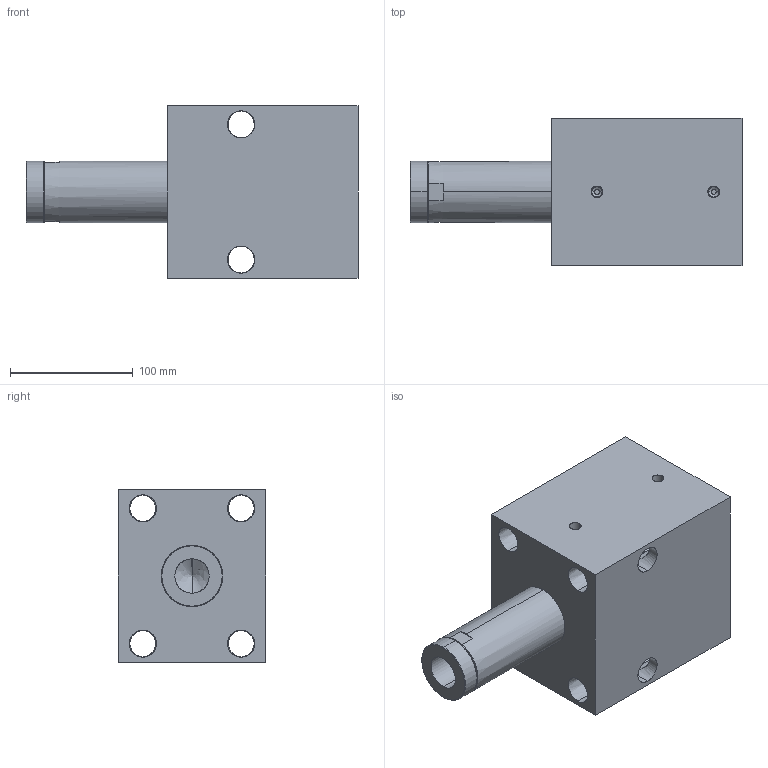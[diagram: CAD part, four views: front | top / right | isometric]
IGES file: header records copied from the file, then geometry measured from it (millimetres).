
Start section: SolidWorks IGES file using analytic representation for surfaces
Global section: file name: C:\Documents and Settings\rajib\Desktop\Rajib\BLOCK CYLINDER HYDRAULIC\0801-0806\IGES 0801-0808\0808.IGS; native system: SolidWorks 2007; preprocessor: SolidWorks 2007; author: rajib; date: 110121.164551; units: millimetre
Bounding box: 270 x 120 x 140 mm (x, y, z)
Surface area: 190745.1 mm2 (no closed solid volume)
Topology: 0 solids, 0 shells, 80 faces, 2016 edges, 2014 vertices
Faces by surface type: revolution 58, bspline 22
